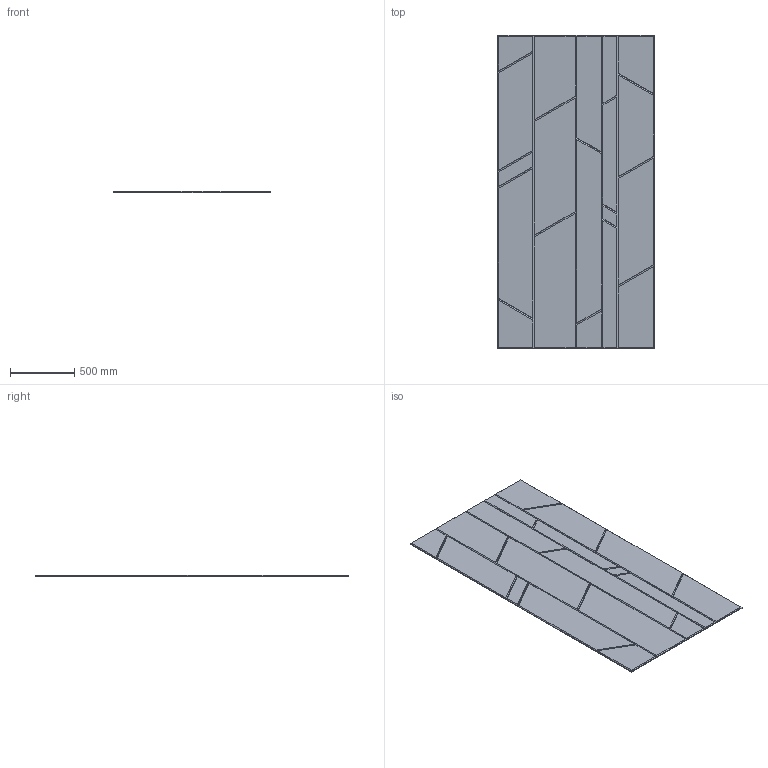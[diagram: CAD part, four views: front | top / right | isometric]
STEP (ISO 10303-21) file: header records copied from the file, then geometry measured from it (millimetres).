
FILE_DESCRIPTION(/* description */ (''),/* implementation_level */ '2;1');
FILE_NAME(/* name */ 'Y:\Design and Engineering\MaterialLogiq\CAD ASSETS\MASTER\PET ENGRAVED\WEB ASSETS\Tangram Vertical.stp',/* time_stamp */ '2024-08-26T10:34:59-05:00',/* author */ ('Grant Baker'),/* organization */ (''),/* preprocessor_version */ 'ST-DEVELOPER v19',/* originating_system */ 'Autodesk Inventor 2023',/* authorisation */ '');
FILE_SCHEMA (('AUTOMOTIVE_DESIGN { 1 0 10303 214 3 1 1 }'));
Length unit declared in the file: inch
Products named in the file (1): Tangram Vertical
Bounding box: 1219.2 x 2438.4 x 12.7 mm (x, y, z)
Volume: 37063909.9 mm3; surface area: 6082056.3 mm2
Topology: 1 solids, 1 shells, 100 faces, 230 edges, 132 vertices
Faces by surface type: plane 100
Entity records: 2727 total; most frequent: CARTESIAN_POINT 463, ORIENTED_EDGE 460, DIRECTION 432, LINE 230, VECTOR 230, EDGE_CURVE 230, VERTEX_POINT 132, AXIS2_PLACEMENT_3D 101
